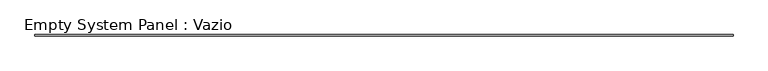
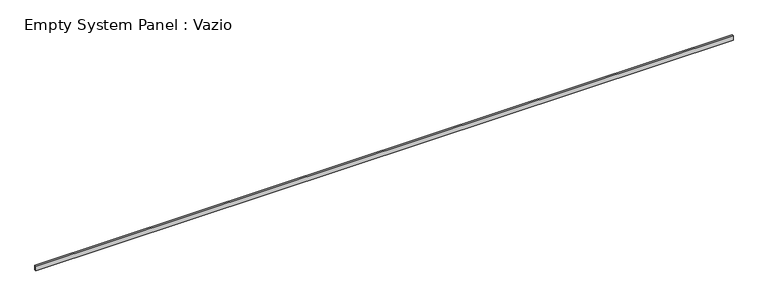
"""IFC4 building model written with IfcOpenShell, lengths in millimetres: plate geometry, Empty System Panel : Vazio."""

import ifcopenshell
import ifcopenshell.guid

model = None  # the IFC model being written
_history = None  # IfcOwnerHistory: only IFC2X3 demands one
_inside = {}  # id of a spatial element -> (the spatial element, [elements in it])
_under = {}  # id of a project, library or spatial element -> (it, [spatial elements below it])
_declared = {}  # id of a project -> (the project, [libraries it declares])
_typed = {}  # id of a type object -> (the type object, [elements of that type])
_made_of = {}  # id of a material, layer set ... -> (it, [elements and type objects made of it])


def new_model(schema):
    """Start an empty IFC model of exactly this schema.

    Asked for "IFC4X3", IfcOpenShell would pick the latest addendum, in which some entities
    have other attributes; the version numbers below select the first issue.
    IFC2X3 requires an IfcOwnerHistory on every rooted entity: one is made here for all.
    """
    global model, _history
    if schema == "IFC4X3":
        model = ifcopenshell.file(schema_version=(4, 3, 0, 0))
    else:
        model = ifcopenshell.file(schema=schema)
    _inside.clear()
    _under.clear()
    _declared.clear()
    _typed.clear()
    _made_of.clear()
    _history = None
    if model.schema == "IFC2X3":
        org = make("IfcOrganization", Name="unknown")
        user = make(
            "IfcPersonAndOrganization",
            ThePerson=make("IfcPerson", FamilyName="unknown"),
            TheOrganization=org,
        )
        app = make(
            "IfcApplication",
            ApplicationDeveloper=org,
            Version="unknown",
            ApplicationFullName="unknown",
            ApplicationIdentifier="unknown",
        )
        _history = make(
            "IfcOwnerHistory",
            OwningUser=user,
            OwningApplication=app,
            ChangeAction="ADDED",
            CreationDate=0,
        )
    return model


def make(cls, **values):
    """One entity of the class cls with the attributes given. An attribute that is None is left unset."""
    return model.create_entity(
        cls, **{name: value for name, value in values.items() if value is not None}
    )


def rooted(cls, **values):
    """An entity with a GlobalId (a new one), such as an element, a storey or a relation."""
    return make(cls, GlobalId=ifcopenshell.guid.new(), OwnerHistory=_history, **values)


def si_unit(unit_type, name, prefix=None):
    """IfcSIUnit, for example si_unit("LENGTHUNIT", "METRE", prefix="MILLI")."""
    return make("IfcSIUnit", UnitType=unit_type, Prefix=prefix, Name=name)


def assignment(units):
    """IfcUnitAssignment: the units of a project."""
    return None if units is None else make("IfcUnitAssignment", Units=units)


def point(xyz):
    """IfcCartesianPoint."""
    return None if xyz is None else make("IfcCartesianPoint", Coordinates=xyz)


def direction(xyz):
    """IfcDirection."""
    return None if xyz is None else make("IfcDirection", DirectionRatios=xyz)


def frame(location, z_axis=None, x_axis=None):
    """IfcAxis2Placement3D, a coordinate frame: its origin and axes. An axis left out is left unset."""
    return make(
        "IfcAxis2Placement3D",
        Location=point(location),
        Axis=direction(z_axis),
        RefDirection=direction(x_axis),
    )


def origin():
    """The frame at (0, 0, 0) with its axes left unset."""
    return frame((0.0, 0.0, 0.0))


def origin_with_axes():
    """The frame at (0, 0, 0) with the z axis (0, 0, 1) and the x axis (1, 0, 0) written out."""
    return frame((0.0, 0.0, 0.0), z_axis=(0.0, 0.0, 1.0), x_axis=(1.0, 0.0, 0.0))


def place(relative_to, where):
    """IfcLocalPlacement: puts the frame where relative to a parent placement (None: the world)."""
    return make(
        "IfcLocalPlacement", PlacementRelTo=relative_to, RelativePlacement=where
    )


def context(
    kind, dimensions, precision=None, world=None, true_north=None, identifier=None
):
    """IfcGeometricRepresentationContext, for example the 3D "Model" context."""
    return make(
        "IfcGeometricRepresentationContext",
        ContextIdentifier=identifier,
        ContextType=kind,
        CoordinateSpaceDimension=dimensions,
        Precision=precision,
        WorldCoordinateSystem=world,
        TrueNorth=true_north,
    )


def project(units=None, contexts=None):
    """IfcProject with its units and contexts."""
    return rooted(
        "IfcProject",
        Name="project",
        RepresentationContexts=contexts,
        UnitsInContext=assignment(units),
    )


def spatial(cls, under=None, at=None, **own):
    """A site, building, storey or space (cls), placed at a placement, below another one or the project."""
    s = rooted(cls, ObjectPlacement=at, **own)
    if under is not None:
        _under.setdefault(under.id(), (under, []))[1].append(s)
    return s


def polyline(points):
    """IfcPolyline through the points."""
    return make("IfcPolyline", Points=[point(p) for p in points])


def outline(outer, holes=None, kind="AREA"):
    """IfcArbitraryClosedProfileDef: a profile drawn as a closed curve; with holes, ...WithVoids."""
    if holes is None:
        return make("IfcArbitraryClosedProfileDef", ProfileType=kind, OuterCurve=outer)
    return make(
        "IfcArbitraryProfileDefWithVoids",
        ProfileType=kind,
        OuterCurve=outer,
        InnerCurves=holes,
    )


def extrude(swept, where, along, depth):
    """IfcExtrudedAreaSolid: the profile swept, set in the frame where, extruded along a direction by depth."""
    return make(
        "IfcExtrudedAreaSolid",
        SweptArea=swept,
        Position=where,
        ExtrudedDirection=direction(along),
        Depth=depth,
    )


def shape(context_of_items, identifier, shape_type, items):
    """IfcShapeRepresentation: the items that make up one representation, for example the "Body"."""
    return make(
        "IfcShapeRepresentation",
        ContextOfItems=context_of_items,
        RepresentationIdentifier=identifier,
        RepresentationType=shape_type,
        Items=items,
    )


def source(mapping_origin, context_of_items, identifier, shape_type, items):
    """IfcRepresentationMap: a shape defined once, which mapped items show again and again."""
    return make(
        "IfcRepresentationMap",
        MappingOrigin=mapping_origin,
        MappedRepresentation=shape(context_of_items, identifier, shape_type, items),
    )


def transform(
    local_origin,
    x_axis=None,
    y_axis=None,
    z_axis=None,
    scale=None,
    scale2=None,
    scale3=None,
    uniform=True,
):
    """IfcCartesianTransformationOperator3D, or its non-uniform kind. x_axis, y_axis, z_axis: its Axis1, 2, 3."""
    if uniform:
        return make(
            "IfcCartesianTransformationOperator3D",
            Axis1=direction(x_axis),
            Axis2=direction(y_axis),
            LocalOrigin=point(local_origin),
            Scale=scale,
            Axis3=direction(z_axis),
        )
    return make(
        "IfcCartesianTransformationOperator3DnonUniform",
        Axis1=direction(x_axis),
        Axis2=direction(y_axis),
        LocalOrigin=point(local_origin),
        Scale=scale,
        Axis3=direction(z_axis),
        Scale2=scale2,
        Scale3=scale3,
    )


def mapped(mapping_source, mapping_target):
    """IfcMappedItem: shows the shape of a source again, moved by a transform."""
    return make(
        "IfcMappedItem", MappingSource=mapping_source, MappingTarget=mapping_target
    )


def made_of(thing, what):
    """Note that an element or type object is made of a material, layer set ...; save() writes the relation."""
    if what is not None:
        _made_of.setdefault(what.id(), (what, []))[1].append(thing)
    return thing


def element(
    cls,
    number,
    at=None,
    inside=None,
    cuts=None,
    type_object=None,
    material=None,
    context=None,
    identifier="Body",
    shape_type=None,
    held_by="IfcProductDefinitionShape",
    body=None,
    shapes=None,
    **own,
):
    """One element of the class cls, such as IfcWall. Its Tag is "e" and its number.

    at: its placement. inside: the storey or other place that contains it. cuts: it is an
    opening in that element (IfcRelVoidsElement). A single representation is given by context,
    identifier, shape_type and body (its items); several are given by shapes. held_by: the class
    of the entity that holds the representations. save() writes the other relations.
    """
    e = rooted(cls, Tag="e%d" % number, ObjectPlacement=at, **own)
    if body is not None:
        shapes = [shape(context, identifier, shape_type, body)]
    if shapes is not None:
        e.Representation = make(held_by, Representations=shapes)
    if inside is not None:
        _inside.setdefault(inside.id(), (inside, []))[1].append(e)
    if cuts is not None:
        rooted(
            "IfcRelVoidsElement", RelatingBuildingElement=cuts, RelatedOpeningElement=e
        )
    if type_object is not None:
        _typed.setdefault(type_object.id(), (type_object, []))[1].append(e)
    return made_of(e, material)


def aggregate(whole, parts):
    """IfcRelAggregates: a whole, such as a stair, and the parts it consists of."""
    return rooted("IfcRelAggregates", RelatingObject=whole, RelatedObjects=parts)


def save(model, path):
    """Write the relations noted so far, then the file.

    IfcRelAggregates (storeys below a building ...), IfcRelContainedInSpatialStructure (elements
    in a storey), IfcRelDefinesByType, IfcRelAssociatesMaterial and IfcRelDeclares: one each for
    every whole, place, type object, material and project.
    """
    for whole, parts in _under.values():
        aggregate(whole, parts)
    for where, things in _inside.values():
        rooted(
            "IfcRelContainedInSpatialStructure",
            RelatedElements=things,
            RelatingStructure=where,
        )
    for kind, things in _typed.values():
        rooted("IfcRelDefinesByType", RelatedObjects=things, RelatingType=kind)
    for what, things in _made_of.values():
        rooted("IfcRelAssociatesMaterial", RelatedObjects=things, RelatingMaterial=what)
    for by, libraries in _declared.values():
        rooted("IfcRelDeclares", RelatingContext=by, RelatedDefinitions=libraries)
    model.write(path)


def empty_system_panel_vazio_e755573b(model_context):
    return source(origin(), model_context, "Body", "SweptSolid", [
        extrude(outline(polyline([(23960.2135497, 50.0), (-23960.2135497, 50.0), (-23960.2135497, 150.0), (23960.2135497, 150.0), (23960.2135497, 50.0)])), origin_with_axes(), (0.0, 0.0, 1.0), 336.6714619),
    ])


if __name__ == "__main__":
    model = new_model("IFC4")
    model_context = context("Model", 3, world=origin())
    ifc_project = project(units=[si_unit("LENGTHUNIT", "METRE", prefix="MILLI")], contexts=[model_context])
    site = spatial("IfcSite", under=ifc_project)
    building = spatial("IfcBuilding", under=site)
    placement = place(None, origin())
    empty_system_panel_vazio_shape = empty_system_panel_vazio_e755573b(model_context)
    element("IfcPlate", 1, ObjectType="Empty System Panel : Vazio", at=placement, inside=building, context=model_context, shape_type="MappedRepresentation", body=[
        mapped(empty_system_panel_vazio_shape, transform((0.0, 0.0, 0.0), x_axis=(1.0, 0.0, 0.0), y_axis=(0.0, 1.0, 0.0), z_axis=(0.0, 0.0, 1.0))),
    ])
    save(model, "model.ifc")
